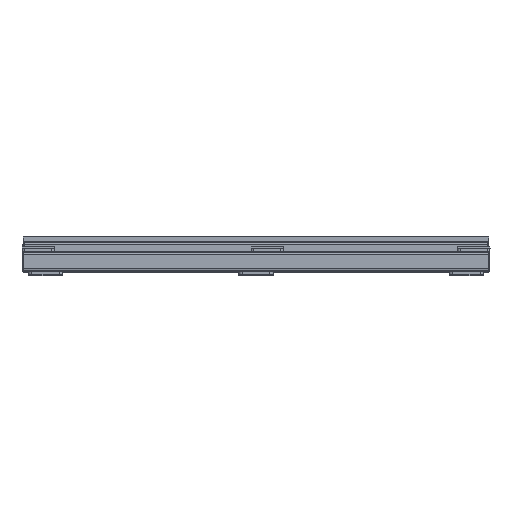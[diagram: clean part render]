
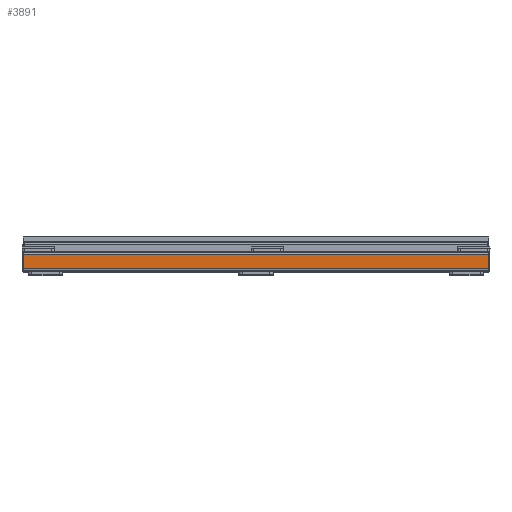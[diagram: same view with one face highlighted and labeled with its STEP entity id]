
A CAD part, top view. The second image highlights one B-rep face of the part: STEP entity #3891.
In plain terms, the highlighted planar face has unit normal (0, 0, 1) as drawn and (-1, 0, 0) by its records, which use the part's own axes.
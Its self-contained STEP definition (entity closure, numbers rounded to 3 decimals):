
#3891=ADVANCED_FACE('',(#7803),#7805,.T.);
#7803=FACE_BOUND('',#7804,.T.);
#7804=EDGE_LOOP('',(#15063,#15064,#15065,#15066));
#7805=PLANE('',#7806);
#7806=AXIS2_PLACEMENT_3D('',#7807,#7808,#7809);
#7807=CARTESIAN_POINT('',(-50.,40.,0.));
#7808=DIRECTION('',(-1.,0.,0.));
#7809=DIRECTION('',(0.,-1.,0.));
#15063=ORIENTED_EDGE('',*,*,#19230,.T.);
#15064=ORIENTED_EDGE('',*,*,#19260,.F.);
#15065=ORIENTED_EDGE('',*,*,#19241,.T.);
#15066=ORIENTED_EDGE('',*,*,#19239,.T.);
#19230=EDGE_CURVE('',#21590,#21588,#21591,.F.);
#19239=EDGE_CURVE('',#21606,#21590,#21607,.T.);
#19241=EDGE_CURVE('',#21609,#21606,#21610,.F.);
#19260=EDGE_CURVE('',#21609,#21588,#21639,.T.);
#21588=VERTEX_POINT('',#25892);
#21590=VERTEX_POINT('',#25897);
#21591=LINE('',#25898,#25899);
#21606=VERTEX_POINT('',#25936);
#21607=LINE('',#25937,#25938);
#21609=VERTEX_POINT('',#25944);
#21610=LINE('',#25945,#25946);
#21639=LINE('',#26019,#26020);
#25892=CARTESIAN_POINT('',(-50.,40.,1890.));
#25897=CARTESIAN_POINT('',(-50.,-20.,1890.));
#25898=CARTESIAN_POINT('',(-50.,40.,1890.));
#25899=VECTOR('',#25900,1.);
#25900=DIRECTION('',(0.,-1.,0.));
#25936=CARTESIAN_POINT('',(-50.,-20.,0.));
#25937=CARTESIAN_POINT('',(-50.,-20.,0.));
#25938=VECTOR('',#25939,1.);
#25939=DIRECTION('',(0.,0.,1.));
#25944=CARTESIAN_POINT('',(-50.,40.,0.));
#25945=CARTESIAN_POINT('',(-50.,-20.,0.));
#25946=VECTOR('',#25947,1.);
#25947=DIRECTION('',(0.,1.,0.));
#26019=CARTESIAN_POINT('',(-50.,40.,0.));
#26020=VECTOR('',#26021,1.);
#26021=DIRECTION('',(0.,0.,1.));
